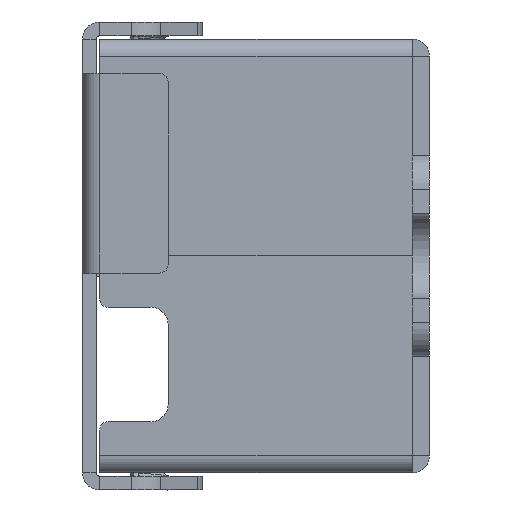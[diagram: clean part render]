
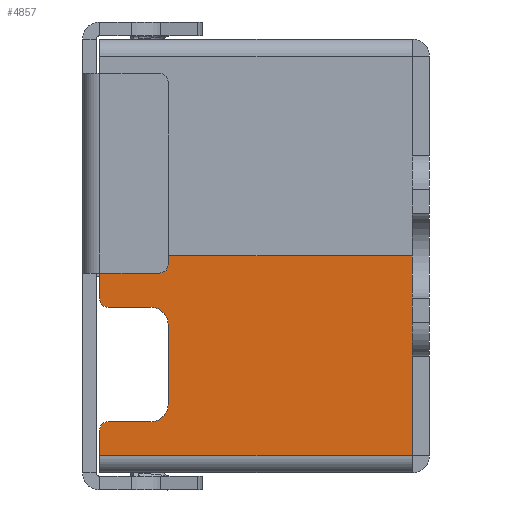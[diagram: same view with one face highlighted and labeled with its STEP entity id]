
A CAD part, left-side view. The second image highlights one B-rep face of the part: STEP entity #4857.
In plain terms, the highlighted planar face has unit normal (-1, 0, 0).
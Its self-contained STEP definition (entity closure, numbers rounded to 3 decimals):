
#1962=CARTESIAN_POINT('',(-34.5,18.8,-10.2));
#1963=DIRECTION('',(-1.,0.,0.));
#1964=DIRECTION('',(0.,0.,1.));
#1965=AXIS2_PLACEMENT_3D('',#1962,#1963,#1964);
#1970=DIRECTION('',(0.,-1.,0.));
#1971=VECTOR('',#1970,2.5);
#1972=CARTESIAN_POINT('',(-34.5,18.8,-9.7));
#1973=LINE('',#1972,#1971);
#1977=CARTESIAN_POINT('',(-34.5,16.3,-8.7));
#1978=DIRECTION('',(-1.,0.,0.));
#1979=DIRECTION('',(0.,0.,-1.));
#1980=AXIS2_PLACEMENT_3D('',#1977,#1978,#1979);
#1985=DIRECTION('',(0.,0.,-1.));
#1986=VECTOR('',#1985,4.7);
#1987=CARTESIAN_POINT('',(-34.5,15.3,-4.));
#1988=LINE('',#1987,#1986);
#1992=CARTESIAN_POINT('',(-34.5,16.3,-4.));
#1993=DIRECTION('',(-1.,0.,0.));
#1994=DIRECTION('',(0.,-1.,0.));
#1995=AXIS2_PLACEMENT_3D('',#1992,#1993,#1994);
#2000=DIRECTION('',(0.,-1.,0.));
#2001=VECTOR('',#2000,2.5);
#2002=CARTESIAN_POINT('',(-34.5,18.8,-3.));
#2003=LINE('',#2002,#2001);
#2007=CARTESIAN_POINT('',(-34.5,18.8,-2.5));
#2008=DIRECTION('',(-1.,0.,0.));
#2009=DIRECTION('',(0.,1.,0.));
#2010=AXIS2_PLACEMENT_3D('',#2007,#2008,#2009);
#2015=DIRECTION('',(0.,0.,1.));
#2016=VECTOR('',#2015,2.5);
#2017=CARTESIAN_POINT('',(-34.5,19.3,-2.5));
#2018=LINE('',#2017,#2016);
#2022=DIRECTION('',(0.,-1.,0.));
#2023=VECTOR('',#2022,18.3);
#2024=CARTESIAN_POINT('',(-34.5,19.3,0.));
#2025=LINE('',#2024,#2023);
#2029=DIRECTION('',(0.,0.,-1.));
#2030=VECTOR('',#2029,11.7);
#2031=CARTESIAN_POINT('',(-34.5,1.,0.));
#2032=LINE('',#2031,#2030);
#2036=DIRECTION('',(0.,0.,1.));
#2037=VECTOR('',#2036,1.5);
#2038=CARTESIAN_POINT('',(-34.5,19.3,-11.7));
#2039=LINE('',#2038,#2037);
#2113=DIRECTION('',(0.,1.,0.));
#2114=VECTOR('',#2113,18.3);
#2115=CARTESIAN_POINT('',(-34.5,1.,-11.7));
#2116=LINE('',#2115,#2114);
#2627=CARTESIAN_POINT('',(-34.5,19.3,0.));
#2628=CARTESIAN_POINT('',(-34.5,1.,0.));
#2629=VERTEX_POINT('',#2627);
#2630=VERTEX_POINT('',#2628);
#2631=CARTESIAN_POINT('',(-34.5,1.,-11.7));
#2632=VERTEX_POINT('',#2631);
#2637=CARTESIAN_POINT('',(-34.5,19.3,-11.7));
#2638=VERTEX_POINT('',#2637);
#2651=CARTESIAN_POINT('',(-34.5,15.3,-4.));
#2652=CARTESIAN_POINT('',(-34.5,15.3,-8.7));
#2653=VERTEX_POINT('',#2651);
#2654=VERTEX_POINT('',#2652);
#2659=CARTESIAN_POINT('',(-34.5,16.3,-3.));
#2661=VERTEX_POINT('',#2659);
#2663=CARTESIAN_POINT('',(-34.5,16.3,-9.7));
#2664=VERTEX_POINT('',#2663);
#2683=CARTESIAN_POINT('',(-34.5,18.8,-9.7));
#2684=CARTESIAN_POINT('',(-34.5,19.3,-10.2));
#2685=VERTEX_POINT('',#2683);
#2686=VERTEX_POINT('',#2684);
#2691=CARTESIAN_POINT('',(-34.5,19.3,-2.5));
#2692=CARTESIAN_POINT('',(-34.5,18.8,-3.));
#2693=VERTEX_POINT('',#2691);
#2694=VERTEX_POINT('',#2692);
#4827=CARTESIAN_POINT('',(-34.5,19.3,-12.7));
#4828=DIRECTION('',(1.,0.,0.));
#4829=DIRECTION('',(0.,1.,0.));
#4830=AXIS2_PLACEMENT_3D('',#4827,#4828,#4829);
#4831=PLANE('',#4830);
#4832=ORIENTED_EDGE('',*,*,#4810,.F.);
#4834=ORIENTED_EDGE('',*,*,#4833,.T.);
#4836=ORIENTED_EDGE('',*,*,#4835,.T.);
#4838=ORIENTED_EDGE('',*,*,#4837,.F.);
#4840=ORIENTED_EDGE('',*,*,#4839,.T.);
#4842=ORIENTED_EDGE('',*,*,#4841,.F.);
#4844=ORIENTED_EDGE('',*,*,#4843,.F.);
#4846=ORIENTED_EDGE('',*,*,#4845,.T.);
#4848=ORIENTED_EDGE('',*,*,#4847,.T.);
#4850=ORIENTED_EDGE('',*,*,#4849,.T.);
#4852=ORIENTED_EDGE('',*,*,#4851,.T.);
#4854=ORIENTED_EDGE('',*,*,#4853,.T.);
#4855=EDGE_LOOP('',(#4832,#4834,#4836,#4838,#4840,#4842,#4844,#4846,#4848,#4850,
#4852,#4854));
#4856=FACE_OUTER_BOUND('',#4855,.F.);
#4857=ADVANCED_FACE('',(#4856),#4831,.F.);
#1966=CIRCLE('',#1965,0.5);
#1981=CIRCLE('',#1980,1.);
#1996=CIRCLE('',#1995,1.);
#2011=CIRCLE('',#2010,0.5);
#4810=EDGE_CURVE('',#2685,#2686,#1966,.T.);
#4833=EDGE_CURVE('',#2685,#2664,#1973,.T.);
#4835=EDGE_CURVE('',#2664,#2654,#1981,.T.);
#4837=EDGE_CURVE('',#2653,#2654,#1988,.T.);
#4839=EDGE_CURVE('',#2653,#2661,#1996,.T.);
#4841=EDGE_CURVE('',#2694,#2661,#2003,.T.);
#4843=EDGE_CURVE('',#2693,#2694,#2011,.T.);
#4845=EDGE_CURVE('',#2693,#2629,#2018,.T.);
#4847=EDGE_CURVE('',#2629,#2630,#2025,.T.);
#4849=EDGE_CURVE('',#2630,#2632,#2032,.T.);
#4851=EDGE_CURVE('',#2632,#2638,#2116,.T.);
#4853=EDGE_CURVE('',#2638,#2686,#2039,.T.);
